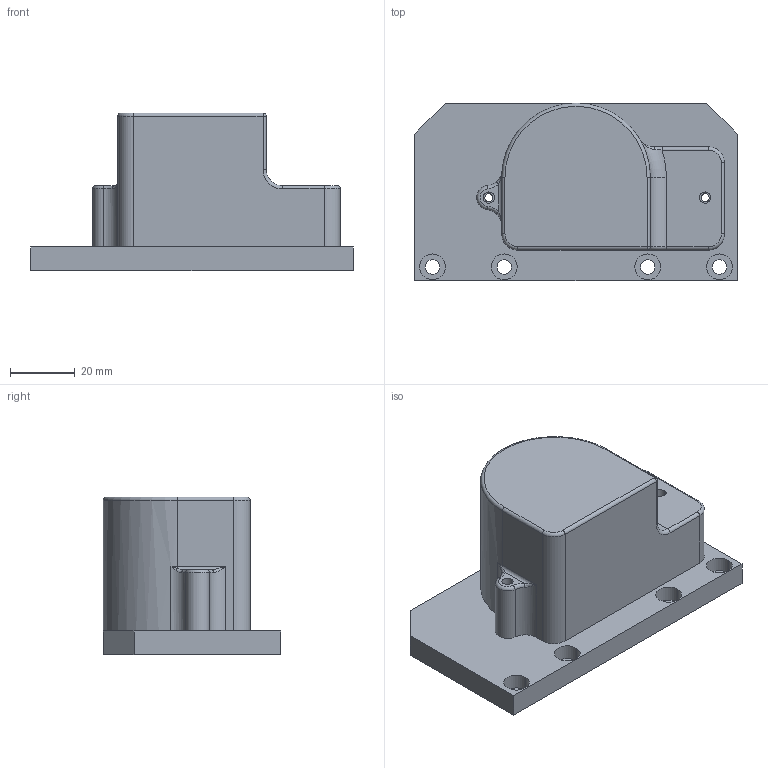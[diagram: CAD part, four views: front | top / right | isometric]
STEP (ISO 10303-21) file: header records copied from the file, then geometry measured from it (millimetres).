
FILE_DESCRIPTION((''),'2;1');
FILE_NAME('ZP200-BRAKE_ASM','2002-07-22T',('FKrakosh'),(''),'PRO/ENGINEER BY PARAMETRIC TECHNOLOGY CORPORATION, 2000420','PRO/ENGINEER BY PARAMETRIC TECHNOLOGY CORPORATION, 2000420','');
FILE_SCHEMA(('CONFIG_CONTROL_DESIGN'));
Length unit declared in the file: millimetre
Products named in the file (3): ZP200-BRAKE; 30309410_PART2; ZP200-BRAKE_ASM
Assembly tree (2 placements, depth 2):
  ZP200-BRAKE_ASM
    ZP200-BRAKE
    30309410_PART2
Bounding box: 100 x 55.01 x 48.92 mm (x, y, z)
Volume: 59228.9 mm3; surface area: 33116.1 mm2
Topology: 2 solids, 2 shells, 111 faces, 267 edges, 164 vertices
Faces by surface type: cylinder 55, plane 30, torus 18, bspline 7, sphere 1
Entity records: 3667 total; most frequent: CARTESIAN_POINT 903, DIRECTION 606, ORIENTED_EDGE 534, EDGE_CURVE 267, AXIS2_PLACEMENT_3D 244, VERTEX_POINT 164, CIRCLE 135, EDGE_LOOP 131
